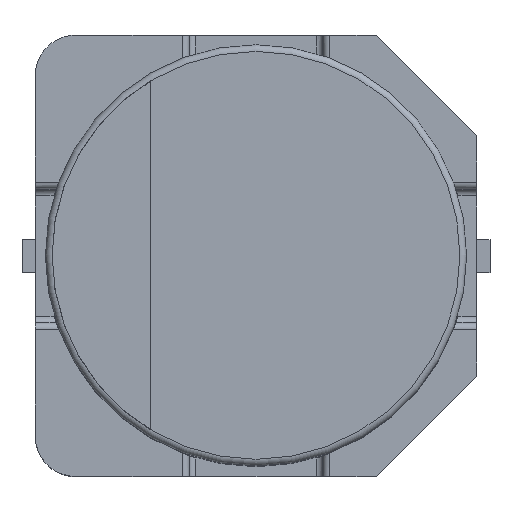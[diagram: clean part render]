
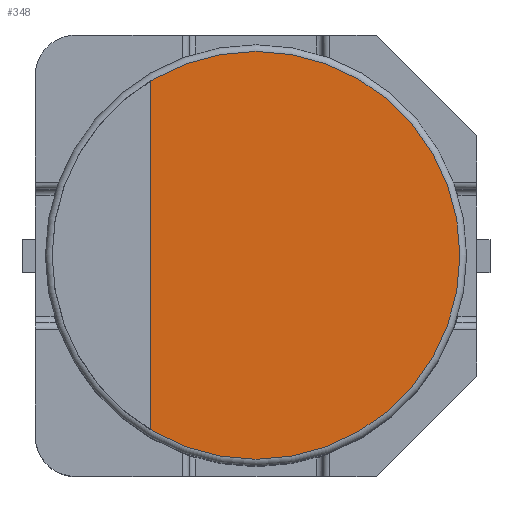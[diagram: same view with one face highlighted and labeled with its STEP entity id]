
A CAD part, top view. The second image highlights one B-rep face of the part: STEP entity #348.
In plain terms, the highlighted planar face has unit normal (0, 0, 1).
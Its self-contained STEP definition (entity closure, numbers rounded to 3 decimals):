
#348=ADVANCED_FACE('',(#505),#420,.F.);
#420=PLANE('',#1935);
#505=FACE_OUTER_BOUND('',#617,.T.);
#617=EDGE_LOOP('',(#984));
#710=CIRCLE('',#1934,3.05);
#984=ORIENTED_EDGE('',*,*,#1448,.T.);
#1255=VERTEX_POINT('',#2883);
#1448=EDGE_CURVE('',#1255,#1255,#710,.T.);
#1934=AXIS2_PLACEMENT_3D('',#2882,#2269,#2270);
#1935=AXIS2_PLACEMENT_3D('',#2884,#2271,#2272);
#2269=DIRECTION('',(0.,0.,1.));
#2270=DIRECTION('',(-1.,0.,0.));
#2271=DIRECTION('',(0.,0.,-1.));
#2272=DIRECTION('',(-1.,0.,0.));
#2882=CARTESIAN_POINT('',(0.,0.,7.4));
#2883=CARTESIAN_POINT('',(-3.05,0.,7.4));
#2884=CARTESIAN_POINT('',(0.,0.,7.4));
